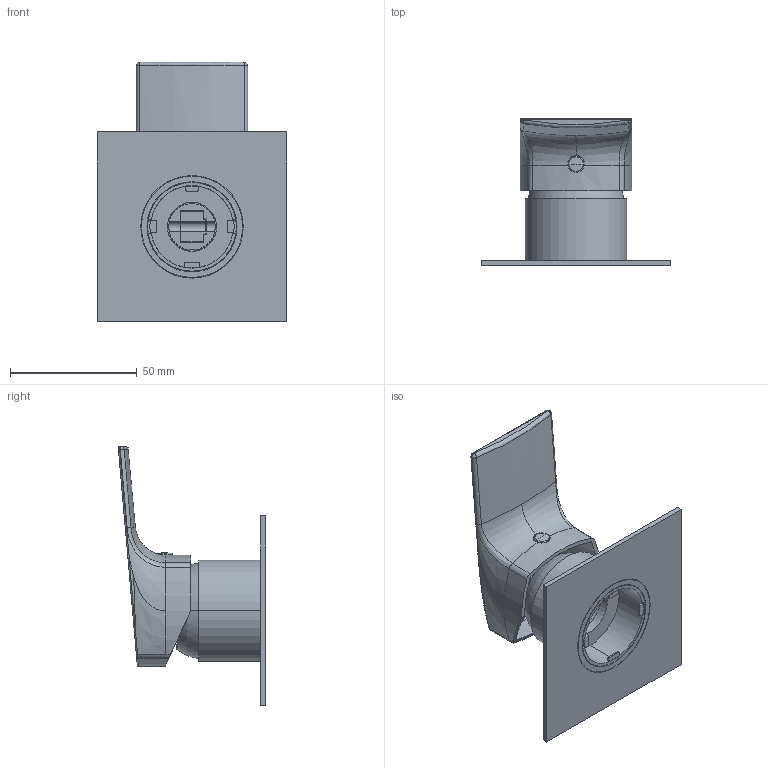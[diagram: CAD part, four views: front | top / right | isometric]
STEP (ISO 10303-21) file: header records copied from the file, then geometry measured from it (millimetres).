
FILE_DESCRIPTION((''),'2;1');
FILE_NAME('75427_SW0001','2025-10-07T11:57:12',('volponeff'),(''),'CREO PARAMETRIC BY PTC INC, 2022014','CREO PARAMETRIC BY PTC INC, 2022014','');
FILE_SCHEMA(('CONFIG_CONTROL_DESIGN'));
Products named in the file (1): 75427_SW0001
Bounding box: 75 x 58.24 x 102.5 mm (x, y, z)
Volume: 47009.9 mm3; surface area: 45012.2 mm2
Topology: 8 solids, 8 shells, 614 faces, 1751 edges, 1139 vertices
Faces by surface type: cylinder 225, plane 213, bspline 77, torus 54, cone 35, sphere 10
Entity records: 40245 total; most frequent: CARTESIAN_POINT 24842, ORIENTED_EDGE 3494, DIRECTION 2908, EDGE_CURVE 1747, VERTEX_POINT 1139, AXIS2_PLACEMENT_3D 1060, VECTOR 788, LINE 788
